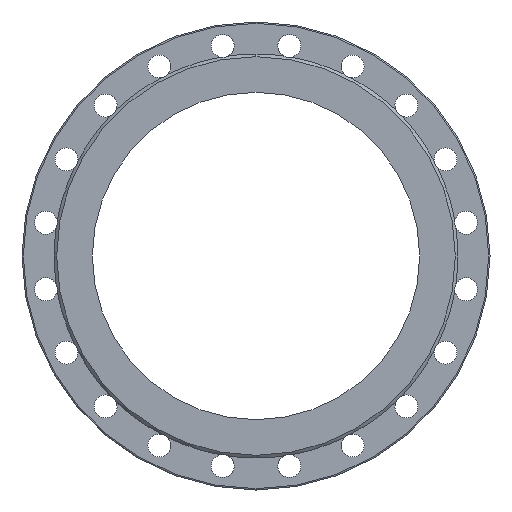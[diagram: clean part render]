
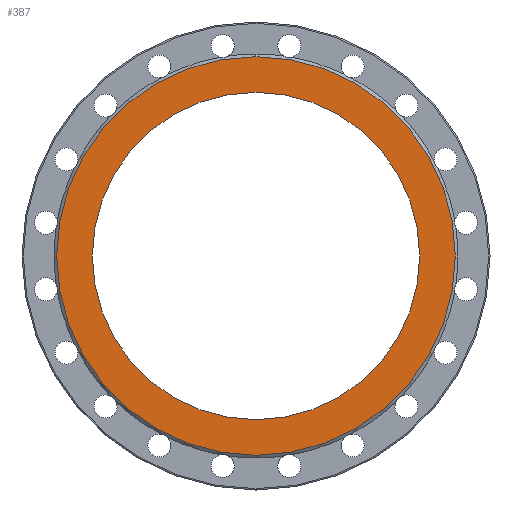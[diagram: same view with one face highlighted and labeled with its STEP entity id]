
A CAD part, left-side view. The second image highlights one B-rep face of the part: STEP entity #387.
In plain terms, the highlighted planar face has unit normal (-1, 0, 0).
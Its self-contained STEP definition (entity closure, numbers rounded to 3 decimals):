
#57 = VERTEX_POINT ( 'NONE', #2970 ) ;
#88 = AXIS2_PLACEMENT_3D ( 'NONE', #4063, #1260, #3082 ) ;
#387 = ADVANCED_FACE ( 'Defeatured_0_4', ( #3896, #6186 ), #7329, .F. ) ;
#546 = AXIS2_PLACEMENT_3D ( 'NONE', #2912, #2423, #3620 ) ;
#601 = ORIENTED_EDGE ( 'NONE', *, *, #5326, .T. ) ;
#843 = DIRECTION ( 'NONE',  ( 0., 0., 1. ) ) ;
#1260 = DIRECTION ( 'NONE',  ( -1., 0., 0. ) ) ;
#1291 = VERTEX_POINT ( 'NONE', #1484 ) ;
#1484 = CARTESIAN_POINT ( 'NONE',  ( -350., 0., -250. ) ) ;
#1614 = DIRECTION ( 'NONE',  ( -1., 0., 0. ) ) ;
#1875 = CIRCLE ( 'NONE', #88, 250. ) ;
#2065 = EDGE_CURVE ( 'Defeatured_0_3+Defeatured_0_4+Defeatured_0_4+Defeatured_0_4', #1291, #3581, #1875, .T. ) ;
#2358 = ORIENTED_EDGE ( 'NONE', *, *, #6006, .T. ) ;
#2423 = DIRECTION ( 'NONE',  ( -1., 0., 0. ) ) ;
#2558 = DIRECTION ( 'NONE',  ( -1., 0., 0. ) ) ;
#2580 = AXIS2_PLACEMENT_3D ( 'NONE', #4644, #1614, #5088 ) ;
#2713 = EDGE_LOOP ( 'NONE', ( #2358, #601 ) ) ;
#2912 = CARTESIAN_POINT ( 'NONE',  ( -350., 0., 0. ) ) ;
#2970 = CARTESIAN_POINT ( 'NONE',  ( -350., 0., 304.5 ) ) ;
#3082 = DIRECTION ( 'NONE',  ( 0., 0., 1. ) ) ;
#3235 = EDGE_LOOP ( 'NONE', ( #6650, #5365 ) ) ;
#3534 = CIRCLE ( 'NONE', #2580, 304.5 ) ;
#3581 = VERTEX_POINT ( 'NONE', #7082 ) ;
#3620 = DIRECTION ( 'NONE',  ( 0., 0., 1. ) ) ;
#3896 = FACE_BOUND ( 'NONE', #3235, .T. ) ;
#3907 = VERTEX_POINT ( 'NONE', #6482 ) ;
#4063 = CARTESIAN_POINT ( 'NONE',  ( -350., 0., 0. ) ) ;
#4342 = CARTESIAN_POINT ( 'NONE',  ( -350., 250., 0. ) ) ;
#4349 = AXIS2_PLACEMENT_3D ( 'NONE', #4834, #2558, #843 ) ;
#4644 = CARTESIAN_POINT ( 'NONE',  ( -350., 0., 0. ) ) ;
#4834 = CARTESIAN_POINT ( 'NONE',  ( -350., 0., 0. ) ) ;
#5088 = DIRECTION ( 'NONE',  ( 0., 0., 1. ) ) ;
#5326 = EDGE_CURVE ( 'Defeatured_0_4+Defeatured_0_0+Defeatured_0_0+Defeatured_0_0', #57, #3907, #3534, .T. ) ;
#5365 = ORIENTED_EDGE ( 'NONE', *, *, #2065, .F. ) ;
#5690 = DIRECTION ( 'NONE',  ( 0., 0., -1. ) ) ;
#5790 = CIRCLE ( 'NONE', #4349, 304.5 ) ;
#6006 = EDGE_CURVE ( 'Defeatured_0_4+Defeatured_0_0+Defeatured_0_0+Defeatured_0_0', #3907, #57, #5790, .T. ) ;
#6186 = FACE_OUTER_BOUND ( 'NONE', #2713, .T. ) ;
#6327 = DIRECTION ( 'NONE',  ( 1., 0., 0. ) ) ;
#6394 = CIRCLE ( 'NONE', #546, 250. ) ;
#6400 = AXIS2_PLACEMENT_3D ( 'NONE', #4342, #6327, #5690 ) ;
#6482 = CARTESIAN_POINT ( 'NONE',  ( -350., 0., -304.5 ) ) ;
#6641 = EDGE_CURVE ( 'Defeatured_0_3+Defeatured_0_4+Defeatured_0_4+Defeatured_0_4', #3581, #1291, #6394, .T. ) ;
#6650 = ORIENTED_EDGE ( 'NONE', *, *, #6641, .F. ) ;
#7082 = CARTESIAN_POINT ( 'NONE',  ( -350., 0., 250. ) ) ;
#7329 = PLANE ( 'NONE',  #6400 ) ;
